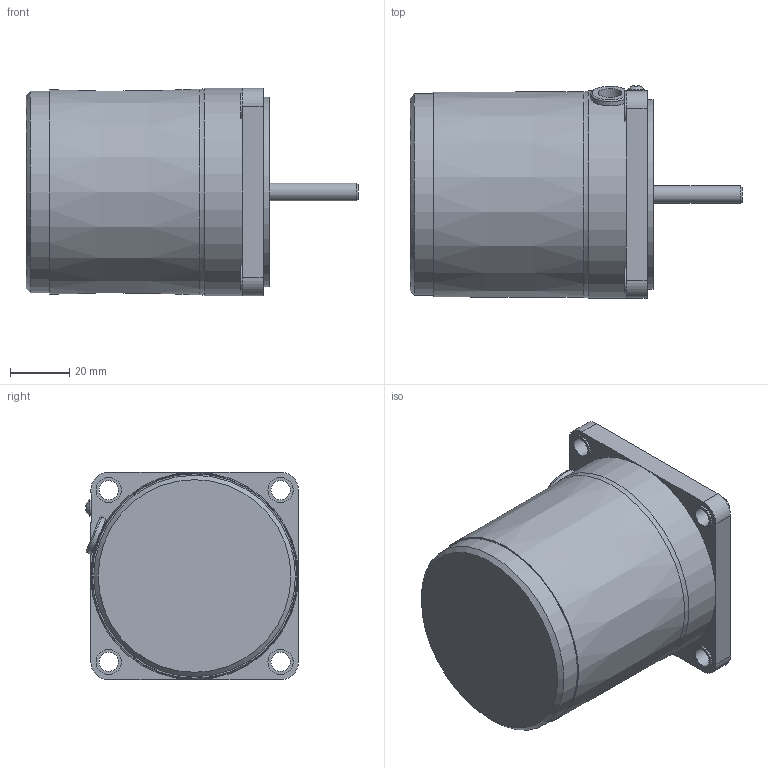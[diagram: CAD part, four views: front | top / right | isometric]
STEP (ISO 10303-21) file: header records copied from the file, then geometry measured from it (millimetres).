
FILE_DESCRIPTION(/* description */ (''),/* implementation_level */ '2;1');
FILE_NAME(/* name */ 'E:\도면작업\2016\0704) 미주향 SG 도면\3D MOTOR\SG7I15S_.stp',/* time_stamp */ '2016-07-22T13:44:31+09:00',/* author */ ('jy-jung'),/* organization */ (''),/* preprocessor_version */ 'ST-DEVELOPER v15.6',/* originating_system */ 'Autodesk Inventor 2015',/* authorisation */ '');
FILE_SCHEMA (('AUTOMOTIVE_DESIGN { 1 0 10303 214 3 1 1 }'));
Length unit declared in the file: millimetre
Products named in the file (1): 부품1
Bounding box: 112 x 71.76 x 70 mm (x, y, z)
Volume: 305421 mm3; surface area: 30582.8 mm2
Topology: 1 solids, 2 shells, 101 faces, 254 edges, 169 vertices
Faces by surface type: plane 63, cylinder 32, cone 3, torus 2, bspline 1
Full cylindrical faces by diameter (mm): 5.6 x1, 6 x1, 6.5 x4, 8 x1, 8.5 x4, 10 x1, 28 x1, 64 x1, 68 x1, 70 x1
Entity records: 3171 total; most frequent: CARTESIAN_POINT 643, DIRECTION 496, ORIENTED_EDGE 458, EDGE_CURVE 229, AXIS2_PLACEMENT_3D 185, VERTEX_POINT 165, EDGE_LOOP 144, LINE 126
